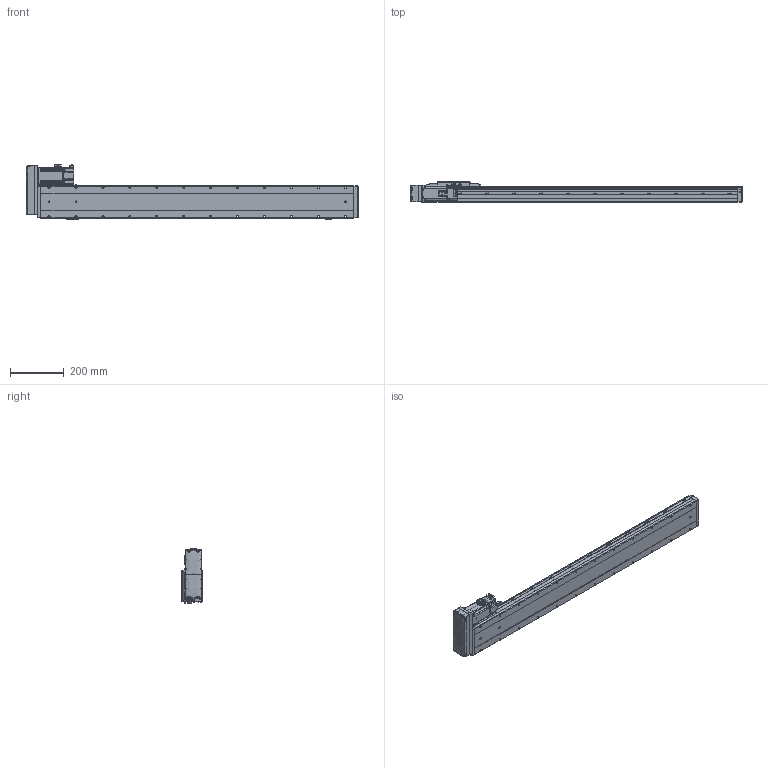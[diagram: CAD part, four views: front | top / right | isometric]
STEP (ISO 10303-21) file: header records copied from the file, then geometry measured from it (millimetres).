
FILE_DESCRIPTION (( 'STEP AP214' ), '1' );
FILE_NAME ('CTH12-L10-S950-BL-C40（简）.STEP', '2023-02-06T03:25:05', ( '' ), ( '' ), 'SwSTEP 2.0', 'SolidWorks 2018', '' );
FILE_SCHEMA (( 'AUTOMOTIVE_DESIGN' ));
Length unit declared in the file: millimetre
Products named in the file (24): PM-Y45; M5蹟隊; 400W萇儂; CTH12底座-L1161简（950行程）; 嫖萇羲壽郪磁2; CTH12賑怢郪磁; hex nuts, style 1-grades ab gb_GB_FASTENER_NUT_SNAB1 M3-N; 湮賑怢  裔赽-1(CTH12)賑怢; CTH嫖萇羲壽假蚾啣; CTH12覜茼え; CTH12賑怢ㄗ潠ㄘ; 内六角圆柱头螺钉M3-2; 内六角圆柱头螺钉M3-1; CTH400W垫板（3个厚）; CTH400W假蚾啣; CTH12侧装连接板（标准）简; 内六角圆柱头螺钉M3; CTH12-L10-S950-BL-C40（简）; CTH12耜蚾裔; CTH12-BL_body_4; 嫖萇羲壽郪磁1; CTH12_body_3; 蚐郲; CTH12
Assembly tree (44 placements, depth 4):
  CTH12-L10-S950-BL-C40（简）
    CTH12底座-L1161简（950行程）
    蚐郲  x2
    CTH12_body_3
    CTH12-BL_body_4
    CTH12侧装连接板（标准）简
    CTH12耜蚾裔
    CTH12賑怢郪磁
      CTH12
        湮賑怢  裔赽-1(CTH12)賑怢
        CTH12賑怢ㄗ潠ㄘ
    CTH12覜茼え
    CTH400W垫板（3个厚）
    400W萇儂
    内六角圆柱头螺钉M3  x6
    M5蹟隊  x4
    嫖萇羲壽郪磁1
      CTH嫖萇羲壽假蚾啣
      PM-Y45
      内六角圆柱头螺钉M3-2  x2
      内六角圆柱头螺钉M3-1  x2
      hex nuts, style 1-grades ab gb_GB_FASTENER_NUT_SNAB1 M3-N  x2
    嫖萇羲壽郪磁2  x2
      CTH嫖萇羲壽假蚾啣
      PM-Y45
      内六角圆柱头螺钉M3-1
      内六角圆柱头螺钉M3-2
      hex nuts, style 1-grades ab gb_GB_FASTENER_NUT_SNAB1 M3-N
    CTH400W假蚾啣
Bounding box: 1231.5 x 76 x 205.26 mm (x, y, z)
Volume: 8208060 mm3; surface area: 790583.6 mm2
Topology: 47 solids, 48 shells, 3344 faces, 8355 edges, 5233 vertices
Faces by surface type: plane 1610, cylinder 953, cone 463, bspline 190, torus 124, sphere 4
Entity records: 110474 total; most frequent: CARTESIAN_POINT 40906, ORIENTED_EDGE 13812, DIRECTION 13088, EDGE_CURVE 6906, AXIS2_PLACEMENT_3D 4592, VERTEX_POINT 4337, VECTOR 3904, LINE 3904
